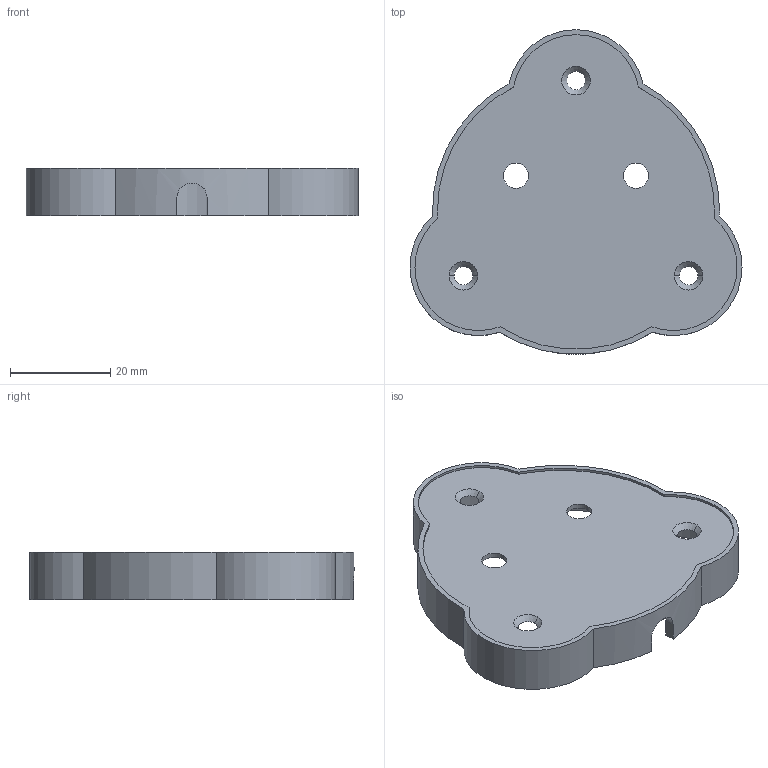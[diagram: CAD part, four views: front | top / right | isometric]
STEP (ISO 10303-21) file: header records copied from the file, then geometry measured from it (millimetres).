
FILE_DESCRIPTION (( 'STEP AP214' ), '1' );
FILE_NAME ('Âåðõíÿÿ êðûøêà êíîïêè.STEP', '2021-11-10T11:30:45', ( 'j03075@gmail.com' ), ( '' ), 'SwSTEP 2.0', 'SolidWorks 2021', '' );
FILE_SCHEMA (( 'AUTOMOTIVE_DESIGN' ));
Length unit declared in the file: millimetre
Products named in the file (1): Âåðõíÿÿ êðûøêà êíîïêè
Bounding box: 66.37 x 64.9 x 9.5 mm (x, y, z)
Volume: 6236.2 mm3; surface area: 9622.9 mm2
Topology: 1 solids, 1 shells, 50 faces, 141 edges, 94 vertices
Faces by surface type: cylinder 37, plane 7, cone 6
Entity records: 1777 total; most frequent: CARTESIAN_POINT 346, DIRECTION 325, ORIENTED_EDGE 282, EDGE_CURVE 141, AXIS2_PLACEMENT_3D 137, VERTEX_POINT 94, CIRCLE 86, EDGE_LOOP 61
